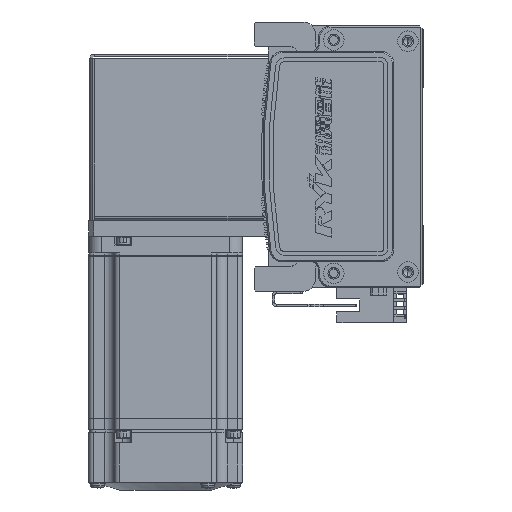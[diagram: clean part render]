
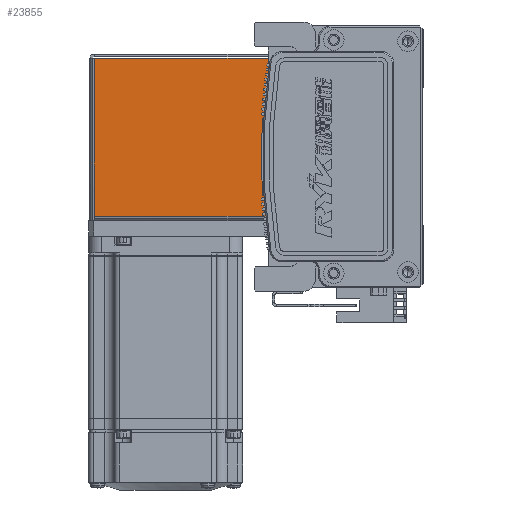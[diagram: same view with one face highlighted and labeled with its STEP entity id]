
A CAD part, left-side view. The second image highlights one B-rep face of the part: STEP entity #23855.
In plain terms, the highlighted planar face has unit normal (-1, 0, 0) as drawn and (0, 0, 1) by its records, which use the part's own axes.
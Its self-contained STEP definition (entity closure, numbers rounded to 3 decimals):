
#1910 = EDGE_LOOP ( 'NONE', ( #4268, #24858, #4726, #57684 ) ) ;
#1914 = CARTESIAN_POINT ( 'NONE',  ( -30.793, 0.737, 35. ) ) ;
#3336 = CARTESIAN_POINT ( 'NONE',  ( 30.763, 68.5, 35. ) ) ;
#4268 = ORIENTED_EDGE ( 'NONE', *, *, #15123, .T. ) ;
#4338 = VECTOR ( 'NONE', #10623, 1000. ) ;
#4726 = ORIENTED_EDGE ( 'NONE', *, *, #48549, .F. ) ;
#5705 = DIRECTION ( 'NONE',  ( 0., 1., 0. ) ) ;
#10175 = CARTESIAN_POINT ( 'NONE',  ( -32.5, 0.737, 35. ) ) ;
#10623 = DIRECTION ( 'NONE',  ( -1., 0., 0. ) ) ;
#10945 = EDGE_CURVE ( 'NONE', #16182, #28422, #44665, .T. ) ;
#11567 = LINE ( 'NONE', #65554, #43616 ) ;
#14895 = CARTESIAN_POINT ( 'NONE',  ( 0., 0., 35. ) ) ;
#15123 = EDGE_CURVE ( 'NONE', #16182, #15415, #50562, .T. ) ;
#15415 = VERTEX_POINT ( 'NONE', #3336 ) ;
#16182 = VERTEX_POINT ( 'NONE', #48119 ) ;
#17526 = EDGE_CURVE ( 'NONE', #15415, #36229, #11567, .T. ) ;
#23855 = ADVANCED_FACE ( 'NONE', ( #25034 ), #31265, .F. ) ;
#24858 = ORIENTED_EDGE ( 'NONE', *, *, #17526, .T. ) ;
#25034 = FACE_OUTER_BOUND ( 'NONE', #1910, .T. ) ;
#27000 = VECTOR ( 'NONE', #37338, 1000. ) ;
#28422 = VERTEX_POINT ( 'NONE', #1914 ) ;
#30079 = VECTOR ( 'NONE', #5705, 1000. ) ;
#31265 = PLANE ( 'NONE',  #43979 ) ;
#36229 = VERTEX_POINT ( 'NONE', #43347 ) ;
#37338 = DIRECTION ( 'NONE',  ( 0., 1., 0. ) ) ;
#40930 = LINE ( 'NONE', #47411, #27000 ) ;
#41309 = DIRECTION ( 'NONE',  ( 0., 0., -1. ) ) ;
#43347 = CARTESIAN_POINT ( 'NONE',  ( -30.793, 68.5, 35. ) ) ;
#43616 = VECTOR ( 'NONE', #50099, 1000. ) ;
#43979 = AXIS2_PLACEMENT_3D ( 'NONE', #14895, #41309, #62777 ) ;
#44665 = LINE ( 'NONE', #10175, #4338 ) ;
#47411 = CARTESIAN_POINT ( 'NONE',  ( -30.793, 0., 35. ) ) ;
#48119 = CARTESIAN_POINT ( 'NONE',  ( 30.763, 0.737, 35. ) ) ;
#48549 = EDGE_CURVE ( 'NONE', #28422, #36229, #40930, .T. ) ;
#50099 = DIRECTION ( 'NONE',  ( -1., 0., 0. ) ) ;
#50562 = LINE ( 'NONE', #63477, #30079 ) ;
#57684 = ORIENTED_EDGE ( 'NONE', *, *, #10945, .F. ) ;
#62777 = DIRECTION ( 'NONE',  ( -1., 0., 0. ) ) ;
#63477 = CARTESIAN_POINT ( 'NONE',  ( 30.763, 0.737, 35. ) ) ;
#65554 = CARTESIAN_POINT ( 'NONE',  ( 0., 68.5, 35. ) ) ;
